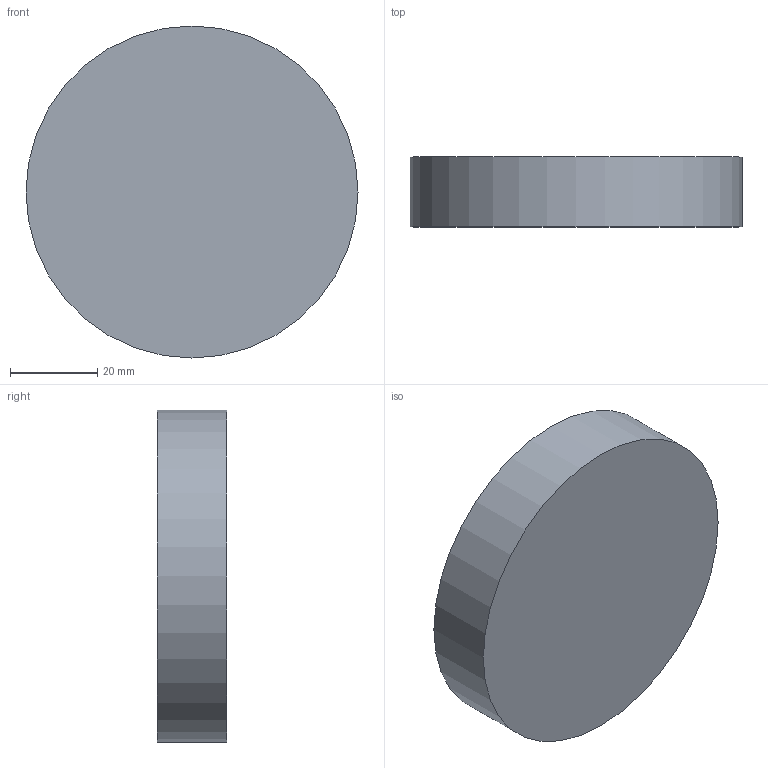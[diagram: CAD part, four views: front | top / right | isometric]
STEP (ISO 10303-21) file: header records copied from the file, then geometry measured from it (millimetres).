
FILE_DESCRIPTION(('Open CASCADE Model'),'2;1');
FILE_NAME('Open CASCADE Shape Model','2026-10-17T16:45:04',('Author'),( 'Open CASCADE'),'Open CASCADE STEP processor 8.0','build123d', 'Unknown');
FILE_SCHEMA(('AUTOMOTIVE_DESIGN { 1 0 10303 214 1 1 1 1 }'));
Length unit declared in the file: millimetre
Products named in the file (2): =>[0:1:1:2]; COMPOUND
Assembly tree (1 placements, depth 2):
  =>[0:1:1:2]
    COMPOUND
Bounding box: 76 x 16 x 76 mm (x, y, z)
Volume: 72583.4 mm3; surface area: 12893.1 mm2
Topology: 1 solids, 1 shells, 3 faces, 3 edges, 2 vertices
Faces by surface type: plane 2, cylinder 1
Full cylindrical faces by diameter (mm): 76 x1
Entity records: 126 total; most frequent: DIRECTION 21, CARTESIAN_POINT 16, AXIS2_PLACEMENT_3D 7, ORIENTED_EDGE 6, PCURVE 6, DEFINITIONAL_REPRESENTATION 6, LINE 5, VECTOR 5
